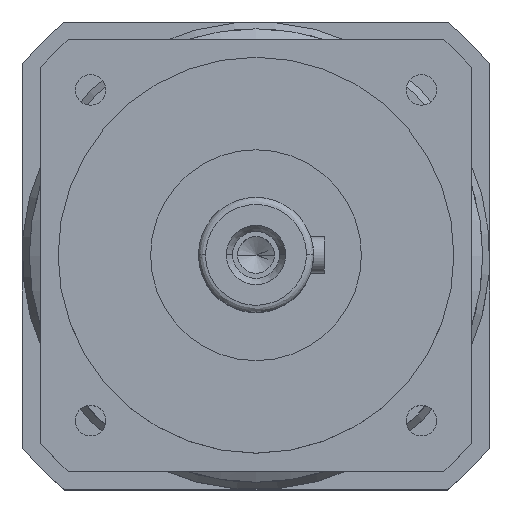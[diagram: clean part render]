
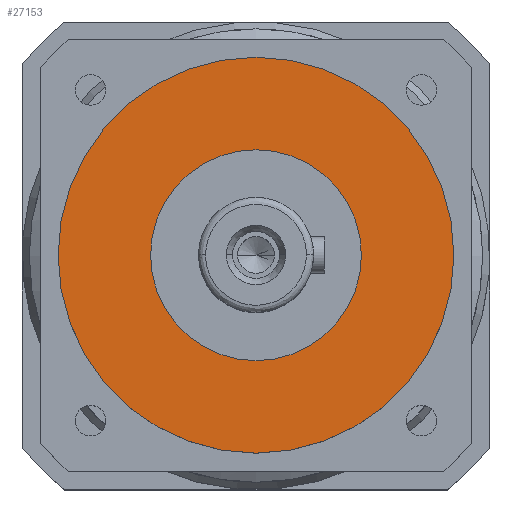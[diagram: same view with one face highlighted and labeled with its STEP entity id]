
A CAD part, top view. The second image highlights one B-rep face of the part: STEP entity #27153.
In plain terms, the highlighted planar face has unit normal (0, 0, 1).
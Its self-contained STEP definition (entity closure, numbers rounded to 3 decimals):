
#23 = VERTEX_POINT ( 'NONE', #2609 ) ;
#1396 = DIRECTION ( 'NONE',  ( 0., 0., -1. ) ) ;
#1646 = AXIS2_PLACEMENT_3D ( 'NONE', #12868, #35633, #16161 ) ;
#2244 = DIRECTION ( 'NONE',  ( 0., 0., -1. ) ) ;
#2609 = CARTESIAN_POINT ( 'NONE',  ( -55., 0., 0. ) ) ;
#2750 = DIRECTION ( 'NONE',  ( 1., 0., 0. ) ) ;
#3911 = CIRCLE ( 'NONE', #1646, 29.3 ) ;
#4516 = CARTESIAN_POINT ( 'NONE',  ( 0., 0., 0. ) ) ;
#6948 = AXIS2_PLACEMENT_3D ( 'NONE', #4516, #1396, #24193 ) ;
#7599 = AXIS2_PLACEMENT_3D ( 'NONE', #21794, #2244, #25035 ) ;
#8467 = AXIS2_PLACEMENT_3D ( 'NONE', #35884, #16398, #39149 ) ;
#10326 = EDGE_CURVE ( 'NONE', #23, #20563, #38456, .T. ) ;
#11741 = VERTEX_POINT ( 'NONE', #24514 ) ;
#12868 = CARTESIAN_POINT ( 'NONE',  ( 0., 0., 0. ) ) ;
#16161 = DIRECTION ( 'NONE',  ( -1., 0., 0. ) ) ;
#16398 = DIRECTION ( 'NONE',  ( 0., 0., 1. ) ) ;
#17730 = EDGE_LOOP ( 'NONE', ( #22659, #20640 ) ) ;
#19153 = EDGE_LOOP ( 'NONE', ( #26193, #27287 ) ) ;
#19626 = EDGE_CURVE ( 'NONE', #20563, #23, #35698, .T. ) ;
#20280 = CARTESIAN_POINT ( 'NONE',  ( 55., 0., 0. ) ) ;
#20563 = VERTEX_POINT ( 'NONE', #20280 ) ;
#20640 = ORIENTED_EDGE ( 'NONE', *, *, #10326, .F. ) ;
#20923 = PLANE ( 'NONE',  #6948 ) ;
#21438 = CARTESIAN_POINT ( 'NONE',  ( 29.3, 0., 0. ) ) ;
#21794 = CARTESIAN_POINT ( 'NONE',  ( 0., 0., 0. ) ) ;
#22293 = DIRECTION ( 'NONE',  ( 0., 0., -1. ) ) ;
#22659 = ORIENTED_EDGE ( 'NONE', *, *, #19626, .F. ) ;
#23101 = EDGE_CURVE ( 'NONE', #11741, #26180, #3911, .T. ) ;
#24193 = DIRECTION ( 'NONE',  ( -1., 0., 0. ) ) ;
#24514 = CARTESIAN_POINT ( 'NONE',  ( -29.3, 0., 0. ) ) ;
#25035 = DIRECTION ( 'NONE',  ( 1., 0., 0. ) ) ;
#26180 = VERTEX_POINT ( 'NONE', #21438 ) ;
#26193 = ORIENTED_EDGE ( 'NONE', *, *, #23101, .F. ) ;
#27153 = ADVANCED_FACE ( 'NONE', ( #33517, #42102 ), #20923, .F. ) ;
#27287 = ORIENTED_EDGE ( 'NONE', *, *, #41150, .F. ) ;
#33187 = CIRCLE ( 'NONE', #8467, 29.3 ) ;
#33517 = FACE_BOUND ( 'NONE', #19153, .T. ) ;
#35633 = DIRECTION ( 'NONE',  ( 0., 0., 1. ) ) ;
#35698 = CIRCLE ( 'NONE', #7599, 55. ) ;
#35884 = CARTESIAN_POINT ( 'NONE',  ( 0., 0., 0. ) ) ;
#38391 = AXIS2_PLACEMENT_3D ( 'NONE', #41755, #22293, #2750 ) ;
#38456 = CIRCLE ( 'NONE', #38391, 55. ) ;
#39149 = DIRECTION ( 'NONE',  ( -1., 0., 0. ) ) ;
#41150 = EDGE_CURVE ( 'NONE', #26180, #11741, #33187, .T. ) ;
#41755 = CARTESIAN_POINT ( 'NONE',  ( 0., 0., 0. ) ) ;
#42102 = FACE_OUTER_BOUND ( 'NONE', #17730, .T. ) ;
